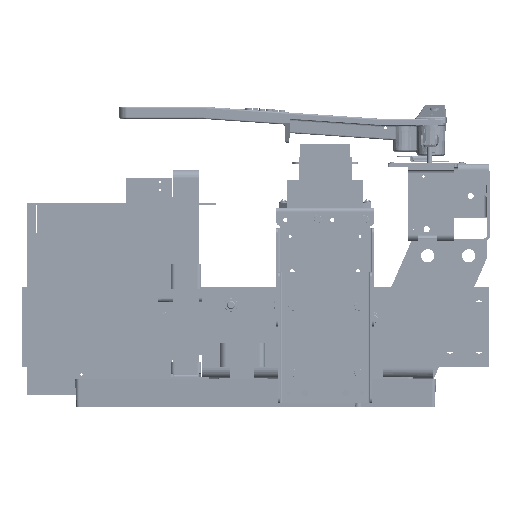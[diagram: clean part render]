
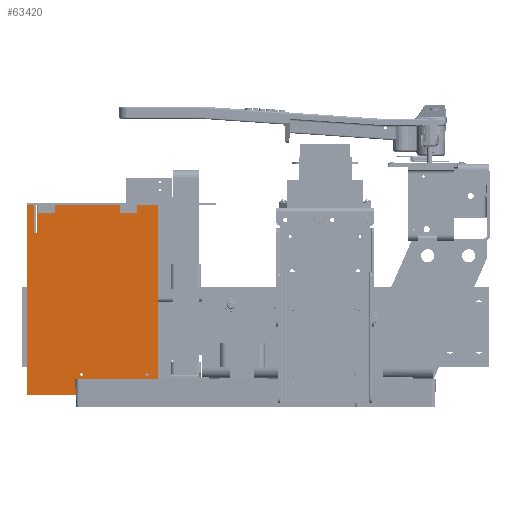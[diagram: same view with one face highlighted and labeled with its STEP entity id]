
A CAD part, left-side view. The second image highlights one B-rep face of the part: STEP entity #63420.
In plain terms, the highlighted planar face has unit normal (-1, 0, 0) as drawn and (0, 0, -1) by its records, which use the part's own axes.
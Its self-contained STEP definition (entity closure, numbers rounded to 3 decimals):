
#3277=FACE_BOUND('',#13184,.T.);
#3278=FACE_BOUND('',#13185,.T.);
#3279=FACE_BOUND('',#13186,.T.);
#3280=FACE_BOUND('',#13187,.T.);
#5156=CIRCLE('',#69664,0.097);
#5158=CIRCLE('',#69667,0.097);
#5160=CIRCLE('',#69670,0.097);
#5162=CIRCLE('',#69673,0.097);
#9168=FACE_OUTER_BOUND('',#13183,.T.);
#13183=EDGE_LOOP('',(#50772,#50773,#50774,#50775,#50776,#50777,#50778,#50779,
#50780,#50781,#50782,#50783));
#13184=EDGE_LOOP('',(#50784));
#13185=EDGE_LOOP('',(#50785));
#13186=EDGE_LOOP('',(#50786));
#13187=EDGE_LOOP('',(#50787));
#18263=LINE('',#102607,#23828);
#18267=LINE('',#102615,#23832);
#18270=LINE('',#102621,#23835);
#18273=LINE('',#102627,#23838);
#18276=LINE('',#102633,#23841);
#18279=LINE('',#102639,#23844);
#18282=LINE('',#102645,#23847);
#18285=LINE('',#102651,#23850);
#18288=LINE('',#102657,#23853);
#18291=LINE('',#102663,#23856);
#18294=LINE('',#102669,#23859);
#18297=LINE('',#102674,#23862);
#23828=VECTOR('',#82079,0.394);
#23832=VECTOR('',#82085,0.394);
#23835=VECTOR('',#82090,0.394);
#23838=VECTOR('',#82095,0.394);
#23841=VECTOR('',#82100,0.394);
#23844=VECTOR('',#82105,0.394);
#23847=VECTOR('',#82110,0.394);
#23850=VECTOR('',#82115,0.394);
#23853=VECTOR('',#82120,0.394);
#23856=VECTOR('',#82125,0.394);
#23859=VECTOR('',#82130,0.394);
#23862=VECTOR('',#82135,0.394);
#29539=VERTEX_POINT('',#102581);
#29541=VERTEX_POINT('',#102587);
#29543=VERTEX_POINT('',#102593);
#29545=VERTEX_POINT('',#102599);
#29547=VERTEX_POINT('',#102605);
#29548=VERTEX_POINT('',#102606);
#29551=VERTEX_POINT('',#102614);
#29553=VERTEX_POINT('',#102620);
#29555=VERTEX_POINT('',#102626);
#29557=VERTEX_POINT('',#102632);
#29559=VERTEX_POINT('',#102638);
#29561=VERTEX_POINT('',#102644);
#29563=VERTEX_POINT('',#102650);
#29565=VERTEX_POINT('',#102656);
#29567=VERTEX_POINT('',#102662);
#29569=VERTEX_POINT('',#102668);
#37009=EDGE_CURVE('',#29539,#29539,#5156,.T.);
#37012=EDGE_CURVE('',#29541,#29541,#5158,.T.);
#37015=EDGE_CURVE('',#29543,#29543,#5160,.T.);
#37018=EDGE_CURVE('',#29545,#29545,#5162,.T.);
#37021=EDGE_CURVE('',#29547,#29548,#18263,.T.);
#37025=EDGE_CURVE('',#29551,#29547,#18267,.T.);
#37028=EDGE_CURVE('',#29553,#29551,#18270,.T.);
#37031=EDGE_CURVE('',#29555,#29553,#18273,.T.);
#37034=EDGE_CURVE('',#29557,#29555,#18276,.T.);
#37037=EDGE_CURVE('',#29559,#29557,#18279,.T.);
#37040=EDGE_CURVE('',#29561,#29559,#18282,.T.);
#37043=EDGE_CURVE('',#29563,#29561,#18285,.T.);
#37046=EDGE_CURVE('',#29565,#29563,#18288,.T.);
#37049=EDGE_CURVE('',#29567,#29565,#18291,.T.);
#37052=EDGE_CURVE('',#29569,#29567,#18294,.T.);
#37055=EDGE_CURVE('',#29548,#29569,#18297,.T.);
#50772=ORIENTED_EDGE('',*,*,#37055,.F.);
#50773=ORIENTED_EDGE('',*,*,#37021,.F.);
#50774=ORIENTED_EDGE('',*,*,#37025,.F.);
#50775=ORIENTED_EDGE('',*,*,#37028,.F.);
#50776=ORIENTED_EDGE('',*,*,#37031,.F.);
#50777=ORIENTED_EDGE('',*,*,#37034,.F.);
#50778=ORIENTED_EDGE('',*,*,#37037,.F.);
#50779=ORIENTED_EDGE('',*,*,#37040,.F.);
#50780=ORIENTED_EDGE('',*,*,#37043,.F.);
#50781=ORIENTED_EDGE('',*,*,#37046,.F.);
#50782=ORIENTED_EDGE('',*,*,#37049,.F.);
#50783=ORIENTED_EDGE('',*,*,#37052,.F.);
#50784=ORIENTED_EDGE('',*,*,#37009,.T.);
#50785=ORIENTED_EDGE('',*,*,#37012,.T.);
#50786=ORIENTED_EDGE('',*,*,#37015,.T.);
#50787=ORIENTED_EDGE('',*,*,#37018,.T.);
#60739=PLANE('',#69688);
#63420=ADVANCED_FACE('',(#9168,#3277,#3278,#3279,#3280),#60739,.F.);
#69664=AXIS2_PLACEMENT_3D('',#102582,#82051,#82052);
#69667=AXIS2_PLACEMENT_3D('',#102588,#82058,#82059);
#69670=AXIS2_PLACEMENT_3D('',#102594,#82065,#82066);
#69673=AXIS2_PLACEMENT_3D('',#102600,#82072,#82073);
#69688=AXIS2_PLACEMENT_3D('',#102677,#82139,#82140);
#82051=DIRECTION('center_axis',(0.,0.,1.));
#82052=DIRECTION('ref_axis',(-1.,0.,0.));
#82058=DIRECTION('center_axis',(0.,0.,1.));
#82059=DIRECTION('ref_axis',(-1.,0.,0.));
#82065=DIRECTION('center_axis',(0.,0.,1.));
#82066=DIRECTION('ref_axis',(-1.,0.,0.));
#82072=DIRECTION('center_axis',(0.,0.,1.));
#82073=DIRECTION('ref_axis',(-1.,0.,0.));
#82079=DIRECTION('',(1.,0.,0.));
#82085=DIRECTION('',(0.,1.,0.));
#82090=DIRECTION('',(1.,0.,0.));
#82095=DIRECTION('',(0.,-1.,0.));
#82100=DIRECTION('',(-1.,0.,0.));
#82105=DIRECTION('',(0.,-1.,0.));
#82110=DIRECTION('',(1.,0.,0.));
#82115=DIRECTION('',(0.,-1.,0.));
#82120=DIRECTION('',(-1.,0.,0.));
#82125=DIRECTION('',(0.,1.,0.));
#82130=DIRECTION('',(1.,0.,0.));
#82135=DIRECTION('',(0.,-1.,0.));
#82139=DIRECTION('center_axis',(0.,0.,1.));
#82140=DIRECTION('ref_axis',(1.,0.,0.));
#102581=CARTESIAN_POINT('',(0.347,2.,0.));
#102582=CARTESIAN_POINT('Origin',(0.25,2.,0.));
#102587=CARTESIAN_POINT('',(0.347,7.,0.));
#102588=CARTESIAN_POINT('Origin',(0.25,7.,0.));
#102593=CARTESIAN_POINT('',(10.472,0.688,0.));
#102594=CARTESIAN_POINT('Origin',(10.375,0.688,0.));
#102599=CARTESIAN_POINT('',(10.472,4.688,0.));
#102600=CARTESIAN_POINT('Origin',(10.375,4.688,0.));
#102605=CARTESIAN_POINT('',(10.625,5.094,0.));
#102606=CARTESIAN_POINT('',(11.156,5.094,0.));
#102607=CARTESIAN_POINT('',(10.625,5.094,0.));
#102614=CARTESIAN_POINT('',(10.625,0.,0.));
#102615=CARTESIAN_POINT('',(10.625,0.,0.));
#102620=CARTESIAN_POINT('',(0.,0.,0.));
#102621=CARTESIAN_POINT('',(0.,0.,0.));
#102626=CARTESIAN_POINT('',(0.,7.422,0.));
#102627=CARTESIAN_POINT('',(0.,7.422,0.));
#102632=CARTESIAN_POINT('',(1.75,7.422,0.));
#102633=CARTESIAN_POINT('',(1.75,7.422,0.));
#102638=CARTESIAN_POINT('',(1.75,7.578,0.));
#102639=CARTESIAN_POINT('',(1.75,7.578,0.));
#102644=CARTESIAN_POINT('',(0.,7.578,0.));
#102645=CARTESIAN_POINT('',(0.,7.578,0.));
#102650=CARTESIAN_POINT('',(0.,8.,0.));
#102651=CARTESIAN_POINT('',(0.,8.,0.));
#102656=CARTESIAN_POINT('',(11.625,8.,0.));
#102657=CARTESIAN_POINT('',(11.625,8.,0.));
#102662=CARTESIAN_POINT('',(11.625,4.719,0.));
#102663=CARTESIAN_POINT('',(11.625,4.719,0.));
#102668=CARTESIAN_POINT('',(11.156,4.719,0.));
#102669=CARTESIAN_POINT('',(11.156,4.719,0.));
#102674=CARTESIAN_POINT('',(11.156,5.094,0.));
#102677=CARTESIAN_POINT('Origin',(5.401,4.41,0.));
